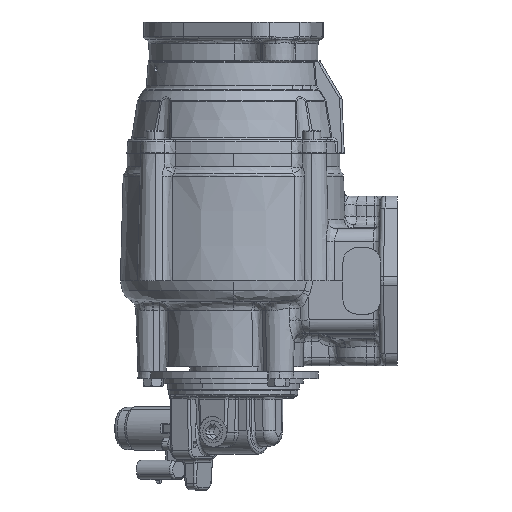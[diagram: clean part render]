
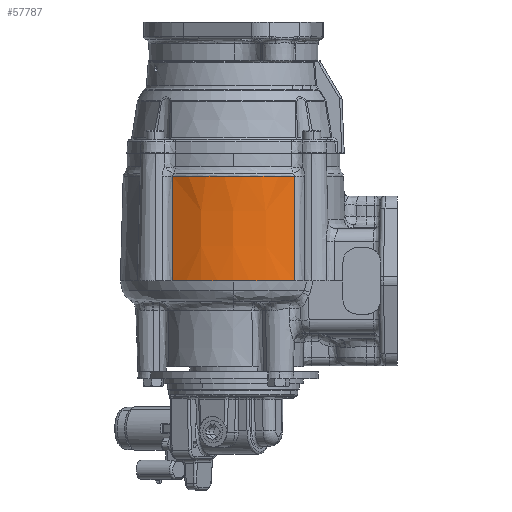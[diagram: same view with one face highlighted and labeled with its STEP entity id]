
A CAD part, left-side view. The second image highlights one B-rep face of the part: STEP entity #57787.
In plain terms, the highlighted conical face has half-angle 1.5 degrees and reference radius 76.073 mm.
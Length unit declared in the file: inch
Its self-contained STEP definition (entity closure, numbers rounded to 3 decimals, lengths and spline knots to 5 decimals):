
#4468 = DIRECTION ( 'NONE',  ( 0., 0., -1. ) ) ;
#5299 = DIRECTION ( 'NONE',  ( 0., 0., -1. ) ) ;
#7148 = ORIENTED_EDGE ( 'NONE', *, *, #15200, .T. ) ;
#7263 = EDGE_CURVE ( 'NONE', #74154, #140258, #52875, .T. ) ;
#9889 = CARTESIAN_POINT ( 'NONE',  ( -0.9685, 3.51989, 0. ) ) ;
#10778 = ORIENTED_EDGE ( 'NONE', *, *, #141515, .T. ) ;
#14470 = VERTEX_POINT ( 'NONE', #22837 ) ;
#15200 = EDGE_CURVE ( 'NONE', #74154, #106295, #121416, .T. ) ;
#15626 = CARTESIAN_POINT ( 'NONE',  ( -3.45445, 1.89501, 0.96047 ) ) ;
#17022 = FACE_OUTER_BOUND ( 'NONE', #137232, .T. ) ;
#20069 = CARTESIAN_POINT ( 'NONE',  ( -3.45445, 5.14477, 0.96049 ) ) ;
#22837 = CARTESIAN_POINT ( 'NONE',  ( -3.4002, 5.14049, 2.77827 ) ) ;
#24544 = CARTESIAN_POINT ( 'NONE',  ( -3.9635, 3.51989, 0. ) ) ;
#39948 = CARTESIAN_POINT ( 'NONE',  ( -3.42697, 1.89734, 1.88656 ) ) ;
#40498 = CARTESIAN_POINT ( 'NONE',  ( -0.9685, 3.51989, 0. ) ) ;
#40772 = CARTESIAN_POINT ( 'NONE',  ( -3.48267, 1.89232, 0. ) ) ;
#52298 = AXIS2_PLACEMENT_3D ( 'NONE', #40498, #4468, #103413 ) ;
#52875 = CIRCLE ( 'NONE', #117142, 2.995 ) ;
#54004 = DIRECTION ( 'NONE',  ( 0., 0., -1. ) ) ;
#57559 = ORIENTED_EDGE ( 'NONE', *, *, #7263, .F. ) ;
#57787 = ADVANCED_FACE ( 'NONE', ( #17022 ), #124605, .T. ) ;
#62016 = CIRCLE ( 'NONE', #136982, 2.995 ) ;
#62605 = DIRECTION ( 'NONE',  ( 1., 0., 0. ) ) ;
#65067 = CARTESIAN_POINT ( 'NONE',  ( -3.4002, 1.89928, 2.77827 ) ) ;
#65812 = CARTESIAN_POINT ( 'NONE',  ( -0.9685, 3.51989, 2.77827 ) ) ;
#74154 = VERTEX_POINT ( 'NONE', #120744 ) ;
#94129 = EDGE_CURVE ( 'NONE', #140258, #142196, #62016, .T. ) ;
#103413 = DIRECTION ( 'NONE',  ( 0., 1., 0. ) ) ;
#105989 = CARTESIAN_POINT ( 'NONE',  ( -0.9685, 3.51989, 0. ) ) ;
#106295 = VERTEX_POINT ( 'NONE', #143906 ) ;
#108110 = CARTESIAN_POINT ( 'NONE',  ( -3.42696, 5.14244, 1.88658 ) ) ;
#110846 = ORIENTED_EDGE ( 'NONE', *, *, #131297, .T. ) ;
#113818 = AXIS2_PLACEMENT_3D ( 'NONE', #65812, #5299, #116993 ) ;
#116993 = DIRECTION ( 'NONE',  ( -1., 0., 0. ) ) ;
#117142 = AXIS2_PLACEMENT_3D ( 'NONE', #9889, #138109, #62605 ) ;
#117612 = ORIENTED_EDGE ( 'NONE', *, *, #94129, .F. ) ;
#120744 = CARTESIAN_POINT ( 'NONE',  ( -3.48267, 1.89232, 0. ) ) ;
#121069 = DIRECTION ( 'NONE',  ( 1., 0., 0. ) ) ;
#121416 = B_SPLINE_CURVE_WITH_KNOTS ( 'NONE', 3,
 ( #40772, #15626, #39948, #65067 ),
 .UNSPECIFIED., .F., .F.,
 ( 4, 4 ),
 ( 0., 1. ),
 .UNSPECIFIED. ) ;
#121971 = CIRCLE ( 'NONE', #113818, 2.92225 ) ;
#124605 = CONICAL_SURFACE ( 'NONE', #52298, 2.995, 0.026 ) ;
#131297 = EDGE_CURVE ( 'NONE', #106295, #14470, #121971, .T. ) ;
#136982 = AXIS2_PLACEMENT_3D ( 'NONE', #105989, #54004, #121069 ) ;
#137169 = CARTESIAN_POINT ( 'NONE',  ( -3.48267, 5.14745, 0. ) ) ;
#137232 = EDGE_LOOP ( 'NONE', ( #57559, #7148, #110846, #10778, #117612 ) ) ;
#138109 = DIRECTION ( 'NONE',  ( 0., 0., -1. ) ) ;
#140258 = VERTEX_POINT ( 'NONE', #24544 ) ;
#141515 = EDGE_CURVE ( 'NONE', #14470, #142196, #163301, .T. ) ;
#142196 = VERTEX_POINT ( 'NONE', #137169 ) ;
#143906 = CARTESIAN_POINT ( 'NONE',  ( -3.4002, 1.89928, 2.77827 ) ) ;
#144142 = CARTESIAN_POINT ( 'NONE',  ( -3.48267, 5.14745, 0. ) ) ;
#146639 = CARTESIAN_POINT ( 'NONE',  ( -3.4002, 5.14049, 2.77827 ) ) ;
#163301 = B_SPLINE_CURVE_WITH_KNOTS ( 'NONE', 3,
 ( #146639, #108110, #20069, #144142 ),
 .UNSPECIFIED., .F., .F.,
 ( 4, 4 ),
 ( 0., 1. ),
 .UNSPECIFIED. ) ;
